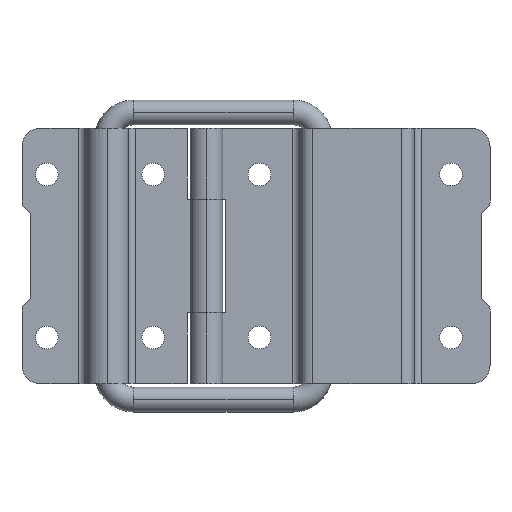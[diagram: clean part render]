
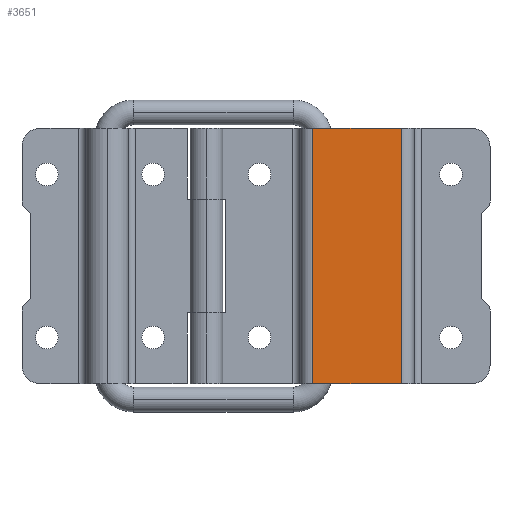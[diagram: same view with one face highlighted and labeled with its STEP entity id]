
A CAD part, left-side view. The second image highlights one B-rep face of the part: STEP entity #3651.
In plain terms, the highlighted planar face has unit normal (-1, 0, 0).
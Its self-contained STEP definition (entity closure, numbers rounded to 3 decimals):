
#160 = EDGE_CURVE ( 'NONE', #3568, #2069, #3090, .T. ) ;
#168 = CARTESIAN_POINT ( 'NONE',  ( -2.7, 15., 18. ) ) ;
#228 = DIRECTION ( 'NONE',  ( 0., 1., 0. ) ) ;
#238 = CARTESIAN_POINT ( 'NONE',  ( -2.7, 15., -18. ) ) ;
#279 = DIRECTION ( 'NONE',  ( 0., -1., 0. ) ) ;
#295 = EDGE_CURVE ( 'NONE', #2770, #2069, #384, .T. ) ;
#343 = DIRECTION ( 'NONE',  ( 0., 0., -1. ) ) ;
#384 = LINE ( 'NONE', #1929, #3394 ) ;
#410 = EDGE_CURVE ( 'NONE', #2990, #2770, #1665, .T. ) ;
#709 = CARTESIAN_POINT ( 'NONE',  ( -2.7, 27.5, 18. ) ) ;
#847 = CARTESIAN_POINT ( 'NONE',  ( -2.7, 27.5, -18. ) ) ;
#1279 = EDGE_LOOP ( 'NONE', ( #2298, #1934, #2514, #2803 ) ) ;
#1280 = CARTESIAN_POINT ( 'NONE',  ( -2.7, 15., -18. ) ) ;
#1665 = LINE ( 'NONE', #2905, #2998 ) ;
#1846 = CARTESIAN_POINT ( 'NONE',  ( -2.7, 15., 18. ) ) ;
#1902 = LINE ( 'NONE', #3150, #3349 ) ;
#1929 = CARTESIAN_POINT ( 'NONE',  ( -2.7, 15., 18. ) ) ;
#1934 = ORIENTED_EDGE ( 'NONE', *, *, #295, .F. ) ;
#2069 = VERTEX_POINT ( 'NONE', #1280 ) ;
#2298 = ORIENTED_EDGE ( 'NONE', *, *, #160, .T. ) ;
#2514 = ORIENTED_EDGE ( 'NONE', *, *, #410, .F. ) ;
#2770 = VERTEX_POINT ( 'NONE', #1846 ) ;
#2803 = ORIENTED_EDGE ( 'NONE', *, *, #3378, .T. ) ;
#2905 = CARTESIAN_POINT ( 'NONE',  ( -2.7, 15., 18. ) ) ;
#2990 = VERTEX_POINT ( 'NONE', #709 ) ;
#2998 = VECTOR ( 'NONE', #3542, 1000. ) ;
#3090 = LINE ( 'NONE', #238, #3296 ) ;
#3150 = CARTESIAN_POINT ( 'NONE',  ( -2.7, 27.5, 18. ) ) ;
#3296 = VECTOR ( 'NONE', #279, 1000. ) ;
#3349 = VECTOR ( 'NONE', #343, 1000. ) ;
#3376 = DIRECTION ( 'NONE',  ( 1., 0., 0. ) ) ;
#3378 = EDGE_CURVE ( 'NONE', #2990, #3568, #1902, .T. ) ;
#3394 = VECTOR ( 'NONE', #3784, 1000. ) ;
#3542 = DIRECTION ( 'NONE',  ( 0., -1., 0. ) ) ;
#3568 = VERTEX_POINT ( 'NONE', #847 ) ;
#3651 = ADVANCED_FACE ( 'NONE', ( #3677 ), #3987, .F. ) ;
#3677 = FACE_OUTER_BOUND ( 'NONE', #1279, .T. ) ;
#3784 = DIRECTION ( 'NONE',  ( 0., 0., -1. ) ) ;
#3843 = AXIS2_PLACEMENT_3D ( 'NONE', #168, #3376, #228 ) ;
#3987 = PLANE ( 'NONE',  #3843 ) ;
